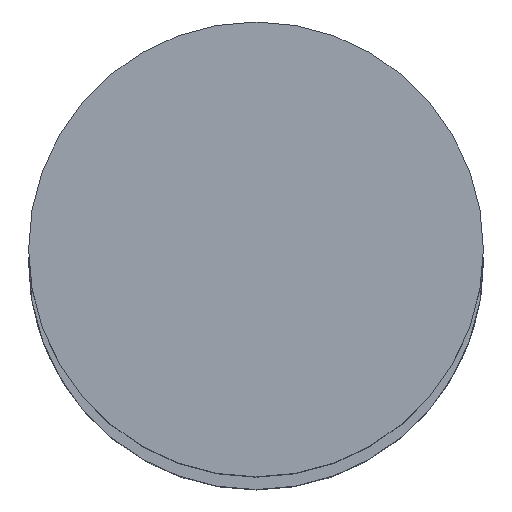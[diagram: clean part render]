
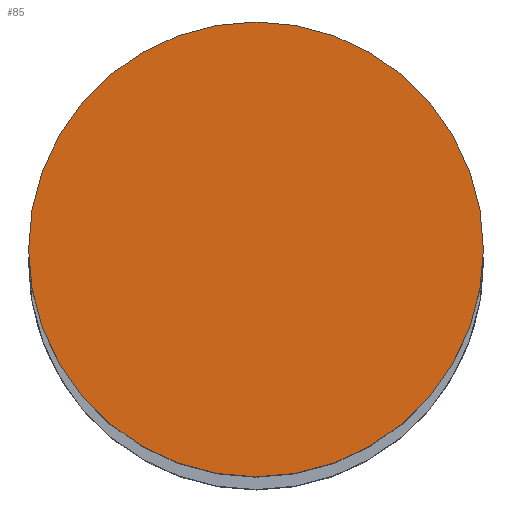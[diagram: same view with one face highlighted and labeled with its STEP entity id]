
A CAD part, top view. The second image highlights one B-rep face of the part: STEP entity #85.
In plain terms, the highlighted planar face has unit normal (0, 0, 1).
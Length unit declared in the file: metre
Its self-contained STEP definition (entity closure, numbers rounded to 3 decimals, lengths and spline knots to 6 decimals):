
#85=ADVANCED_FACE('56:4857',(#165),#166,.F.);
#165=FACE_OUTER_BOUND('',#244,.T.);
#166=PLANE('',#245);
#244=EDGE_LOOP('',(#390,#391));
#245=AXIS2_PLACEMENT_3D('',#392,#393,#394);
#390=ORIENTED_EDGE('',*,*,#433,.F.);
#391=ORIENTED_EDGE('',*,*,#478,.F.);
#392=CARTESIAN_POINT('',(-0.000092,0.000095,3.234));
#393=DIRECTION('',(0.0,0.0,-1.0));
#394=DIRECTION('',(1.0,0.0,0.0));
#433=EDGE_CURVE('27:1418',#505,#501,#507,.T.);
#478=EDGE_CURVE('',#501,#505,#572,.T.);
#501=VERTEX_POINT('',#607);
#505=VERTEX_POINT('',#612);
#507=CIRCLE('',#615,0.0155);
#572=CIRCLE('',#694,0.0155);
#607=CARTESIAN_POINT('',(0.015408,0.000095,3.234));
#612=CARTESIAN_POINT('',(-0.015592,0.000095,3.234));
#615=AXIS2_PLACEMENT_3D('',#736,#737,#738);
#694=AXIS2_PLACEMENT_3D('',#801,#802,#803);
#736=CARTESIAN_POINT('',(-0.000092,0.000095,3.234));
#737=DIRECTION('',(0.0,0.0,-1.0));
#738=DIRECTION('',(1.0,0.0,0.0));
#801=CARTESIAN_POINT('',(-0.000092,0.000095,3.234));
#802=DIRECTION('',(0.0,0.0,-1.0));
#803=DIRECTION('',(1.0,0.0,0.0));
